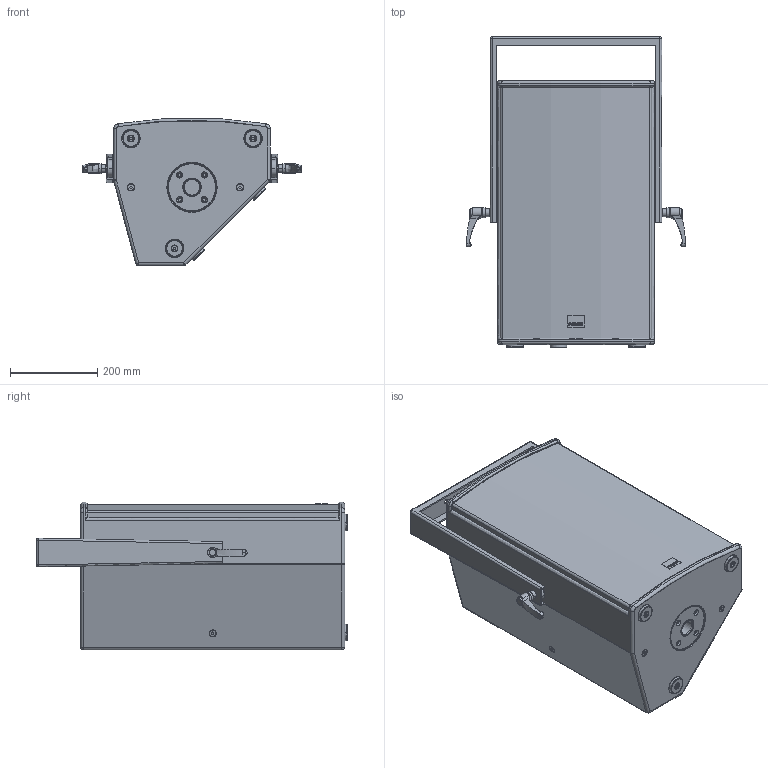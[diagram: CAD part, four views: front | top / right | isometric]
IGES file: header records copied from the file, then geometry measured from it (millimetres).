
Start section: SolidWorks IGES file using analytic representation for surfaces
Global section: file name: C:\Dokumente und Einstellungen\PC_Fabian\Desktop\3d_Dateien_Homepage\A-Serie\SEEBURG_A6_Bracket-ver.IGS; native system: SolidWorks 2009; preprocessor: SolidWorks 2009; author: PC_Fabian; date: 120928.095435; units: millimetre
Bounding box: 501.25 x 713 x 338.41 mm (x, y, z)
Surface area: 2495369.7 mm2 (no closed solid volume)
Topology: 0 solids, 0 shells, 851 faces, 12235 edges, 12231 vertices
Faces by surface type: revolution 444, bspline 407
